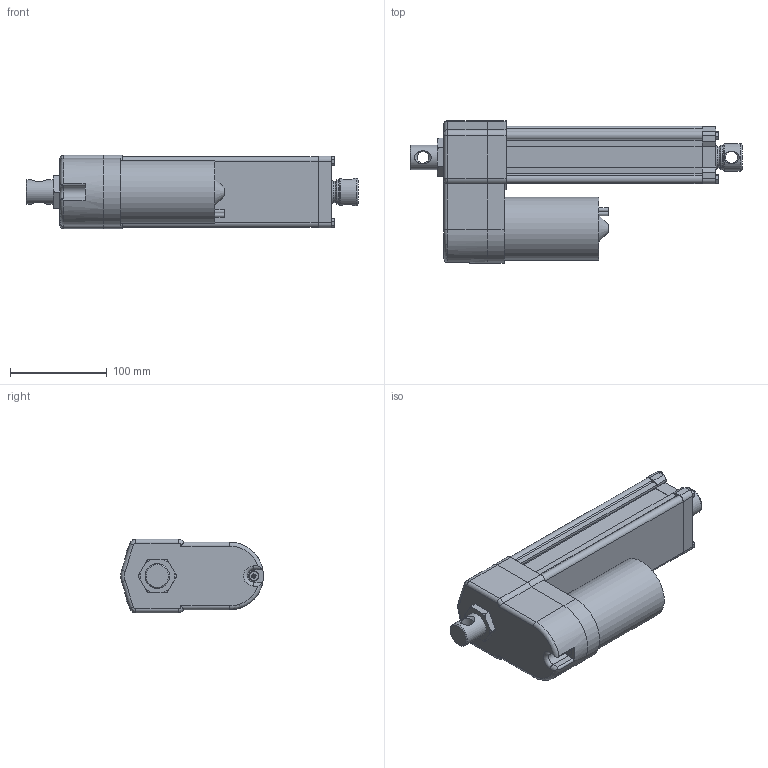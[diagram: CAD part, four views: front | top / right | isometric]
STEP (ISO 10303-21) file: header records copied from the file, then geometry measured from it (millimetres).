
FILE_DESCRIPTION( ( 'STEP AP203' ), '1' );
FILE_NAME( 'p:/temp/worker_439/temp/exporttempdir_4052_435_3F2JM/format_0/DA12-21B65M10M0N-AMM.stp', '2020-04-12T13:21:25', ( 'License CC BY-ND 4.0' ), ( 'CADENAS' ), ' ', 'PARTsolutions', ' ' );
FILE_SCHEMA( ( 'CONFIG_CONTROL_DESIGN' ) );
Length unit declared in the file: millimetre
Products named in the file (8): DA12-21B65M10M0N-AMM; _ELECTRAK-LA14-DA12-21B65MM0N-10M-EU-REAR; _Electrak-10-EU-RA-D602700; _D602768eu; _ELECTRAK-LA14-DA12--MOTOR; _DA12-21B65M10M0NAMMtube; _ELECTRAK-LA14-DA12--10-PLATE; _ELECTRAK-LA14-DA12--1021B65MNM-ROD
Assembly tree (7 placements, depth 2):
  DA12-21B65M10M0N-AMM
    _ELECTRAK-LA14-DA12-21B65MM0N-10M-EU-REAR
    _Electrak-10-EU-RA-D602700
    _D602768eu
    _ELECTRAK-LA14-DA12--MOTOR
    _DA12-21B65M10M0NAMMtube
    _ELECTRAK-LA14-DA12--10-PLATE
    _ELECTRAK-LA14-DA12--1021B65MNM-ROD
Bounding box: 343.95 x 148 x 76.2 mm (x, y, z)
Volume: 1357406.2 mm3; surface area: 266791.1 mm2
Topology: 7 solids, 8 shells, 378 faces, 942 edges, 610 vertices
Faces by surface type: plane 183, cylinder 131, cone 46, torus 14, bspline 4
Full cylindrical faces by diameter (mm): 4 x2, 4.126 x1, 4.8 x6, 5 x5, 5.6 x4, 7.878 x4, 9.398 x1, 12.2 x2, 16 x1, 21.8 x1, 25.2 x1, 25.4 x1, 26.24 x1, 28.5 x1, 28.6 x2, 47.625 x1, 65.3 x1
Entity records: 11834 total; most frequent: CARTESIAN_POINT 2729, DIRECTION 1869, ORIENTED_EDGE 1744, EDGE_CURVE 872, AXIS2_PLACEMENT_3D 702, VERTEX_POINT 602, EDGE_LOOP 485, LINE 465
